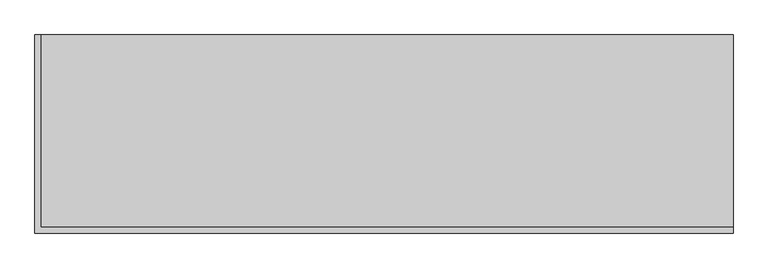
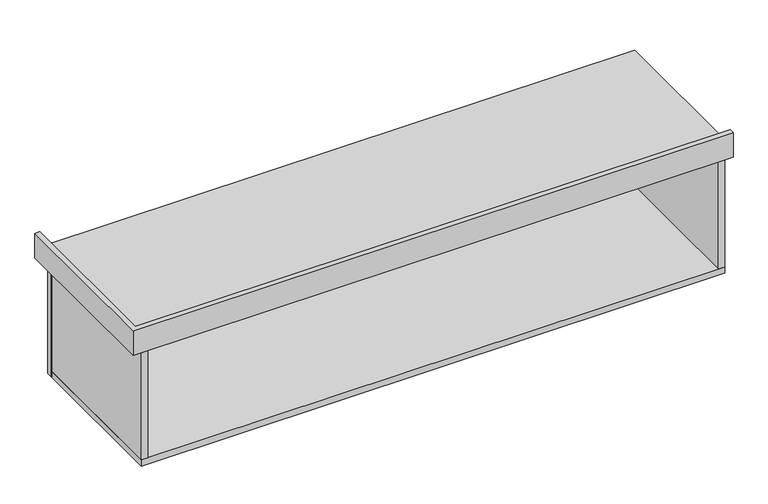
"""IFC4 building model written with IfcOpenShell, lengths in millimetres: furniture geometry, Mueble colgado 2 cajones al lado - lavabo sobreponer : MB3b-mueble baño colgado-2 cajones al lado 185."""

from ifc_helpers import new_model, si_unit, frame, origin, place, context, project, spatial, polyline, outline, extrude, faceted_brep, source, transform, mapped, element, save


def furniture_a0b73d30(model_context):
    return source(origin(), model_context, "Body", "SolidModel", [
        extrude(outline(polyline([(-775.0, 490.0), (-775.0, 510.0), (120.0, 510.0), (120.0, 490.0), (-775.0, 490.0)])), frame((0.0, 0.0, 350.0), z_axis=(0.0, 0.0, 1.0), x_axis=(1.0, 0.0, 0.0)), (0.0, 0.0, 1.0), 360.0),
        faceted_brep([(-800.0, 535.0, 800.0), (-785.0, 535.0, 800.0), (-785.0, 535.0, 750.0), (1050.0, 535.0, 750.0), (1050.0, 535.0, 720.0), (-800.0, 535.0, 720.0), (-800.0, 10.0, 800.0), (1050.0, 10.0, 800.0), (1050.0, 25.0, 800.0), (-785.0, 25.0, 800.0), (-785.0, 25.0, 750.0), (-800.0, 10.0, 720.0), (1050.0, 25.0, 750.0), (1050.0, 10.0, 720.0)], [[[0, 1, 2, 3, 4, 5]], [[1, 0, 6, 7, 8, 9]], [[2, 1, 9, 10]], [[0, 5, 11, 6]], [[9, 8, 12, 10]], [[7, 6, 11, 13]], [[8, 7, 13, 4, 3, 12]], [[3, 2, 10, 12]], [[4, 13, 11, 5]]]),
        extrude(outline(polyline([(1025.0, 510.0), (1025.0, 490.0), (130.0, 490.0), (130.0, 510.0), (1025.0, 510.0)])), frame((0.0, 0.0, 350.0), z_axis=(0.0, 0.0, 1.0), x_axis=(1.0, 0.0, 0.0)), (0.0, 0.0, 1.0), 360.0),
        extrude(outline(polyline([(1025.0, 10.0), (1005.0, 10.0), (1005.0, 485.0), (1025.0, 485.0), (1025.0, 10.0)])), frame((0.0, 0.0, 370.0), z_axis=(0.0, 0.0, 1.0), x_axis=(1.0, 0.0, 0.0)), (0.0, 0.0, 1.0), 350.0),
        extrude(outline(polyline([(-755.0, 10.0), (-775.0, 10.0), (-775.0, 485.0), (-755.0, 485.0), (-755.0, 10.0)])), frame((0.0, 0.0, 370.0), z_axis=(0.0, 0.0, 1.0), x_axis=(1.0, 0.0, 0.0)), (0.0, 0.0, 1.0), 350.0),
        extrude(outline(polyline([(1025.0, 485.0), (1025.0, 10.0), (-775.0, 10.0), (-775.0, 485.0), (1025.0, 485.0)])), frame((0.0, 0.0, 350.0), z_axis=(0.0, 0.0, 1.0), x_axis=(1.0, 0.0, 0.0)), (0.0, 0.0, 1.0), 20.0),
    ])


if __name__ == "__main__":
    model = new_model("IFC4")
    model_context = context("Model", 3, world=origin())
    ifc_project = project(units=[si_unit("LENGTHUNIT", "METRE", prefix="MILLI")], contexts=[model_context])
    site = spatial("IfcSite", under=ifc_project)
    building = spatial("IfcBuilding", under=site)
    placement = place(None, origin())
    furniture_shape = furniture_a0b73d30(model_context)
    element("IfcFurniture", 1, ObjectType="Mueble colgado 2 cajones al lado - lavabo sobreponer : MB3b-mueble baño colgado-2 cajones al lado 185", at=placement, inside=building, context=model_context, shape_type="MappedRepresentation", body=[
        mapped(furniture_shape, transform((0.0, 0.0, 0.0), x_axis=(1.0, 0.0, 0.0), y_axis=(0.0, 1.0, 0.0), z_axis=(0.0, 0.0, 1.0))),
    ])
    save(model, "model.ifc")
